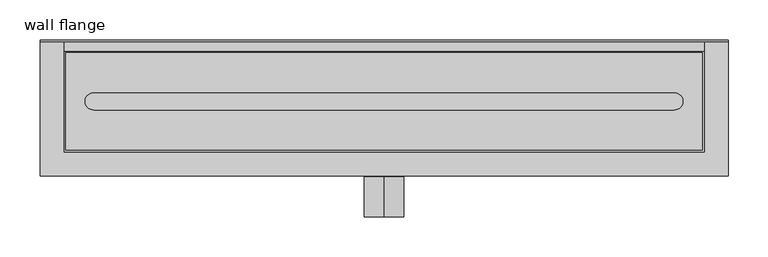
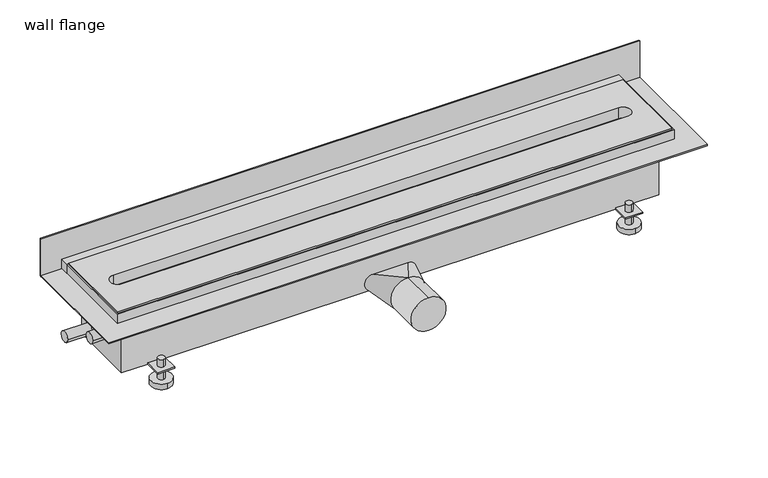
"""IFC4 building model written with IfcOpenShell, lengths in millimetres: sanitary terminal geometry, PF_ST_UN_ShowerDrain X_ACO : wall flange."""

from ifc_helpers import new_model, si_unit, point, frame, frame_2d, origin, origin_with_axes, place, context, project, spatial, polyline, circle_curve, trimmed, segment, composite_curve, outline, extrude, faceted_brep, source, transform, mapped, element, save
from ifc_brep_helpers import plane_surface, cylinder_surface, spline_surface, advanced_brep


def wall_flange_076fe20c(model_context):
    return source(origin(), model_context, "Body", "SolidModel", [
        advanced_brep(
        [(-336.0, 67.0, -73.0), (-336.0, 57.0, -73.0), (-336.0, 77.0, -111.0), (-336.0, 47.0, -111.0), (-336.0, 67.0, -103.0), (-336.0, 57.0, -103.0), (-336.0, 77.0, -103.0), (-336.0, 47.0, -103.0)],
        [
            (0, 1, circle_curve(frame((-336.0, 62.0, -73.0), z_axis=(0.0, 0.0, 1.0), x_axis=(0.0, -1.0, 0.0)), 5.0)),
            (1, 0, circle_curve(frame((-336.0, 62.0, -73.0), z_axis=(0.0, 0.0, 1.0), x_axis=(0.0, -1.0, 0.0)), 5.0)),
            (2, 3, circle_curve(frame((-336.0, 62.0, -111.0), z_axis=(0.0, 0.0, -1.0), x_axis=(0.0, -1.0, 0.0)), 15.0)),
            (3, 2, circle_curve(frame((-336.0, 62.0, -111.0), z_axis=(0.0, 0.0, -1.0), x_axis=(0.0, -1.0, 0.0)), 15.0)),
            (0, 4),
            (4, 5, circle_curve(frame((-336.0, 62.0, -103.0), z_axis=(0.0, 0.0, 1.0), x_axis=(0.0, -1.0, 0.0)), 5.0)),
            (5, 1),
            (5, 4, circle_curve(frame((-336.0, 62.0, -103.0), z_axis=(0.0, 0.0, 1.0), x_axis=(0.0, -1.0, 0.0)), 5.0)),
            (6, 7, circle_curve(frame((-336.0, 62.0, -103.0), z_axis=(0.0, 0.0, 1.0), x_axis=(0.0, -1.0, 0.0)), 15.0)),
            (7, 6, circle_curve(frame((-336.0, 62.0, -103.0), z_axis=(0.0, 0.0, 1.0), x_axis=(0.0, -1.0, 0.0)), 15.0)),
            (6, 2),
            (3, 7),
        ],
        [
            plane_surface(frame((-336.0, 57.0, -73.0), z_axis=(0.0, 0.0, 1.0), x_axis=(1.0, 0.0, 0.0))),
            plane_surface(frame((-336.0, 57.0, -111.0), z_axis=(0.0, 0.0, -1.0), x_axis=(-1.0, 0.0, 0.0))),
            cylinder_surface(frame((-336.0, 62.0, -111.0), z_axis=(0.0, 0.0, 1.0), x_axis=(0.0, -1.0, 0.0)), 5.0),
            plane_surface(frame((-336.0, 47.0, -103.0), z_axis=(0.0, 0.0, 1.0), x_axis=(1.0, 0.0, 0.0))),
            cylinder_surface(frame((-336.0, 62.0, -111.0), z_axis=(0.0, 0.0, 1.0), x_axis=(0.0, -1.0, 0.0)), 15.0),
        ],
        [
            (0, [[1, 2]]),
            (1, [[3, 4]]),
            (2, [[-1, 5, 6, 7]]),
            (2, [[-2, -7, 8, -5]]),
            (3, [[9, 10], [-6, -8]]),
            (4, [[-9, 11, -4, 12]]),
            (4, [[-10, -12, -3, -11]]),
        ],
    ),
        advanced_brep(
        [(-336.0, -56.5, -73.0), (-336.0, -66.5, -73.0), (-336.0, -46.5, -111.0), (-336.0, -76.5, -111.0), (-336.0, -56.5, -103.0), (-336.0, -66.5, -103.0), (-336.0, -46.5, -103.0), (-336.0, -76.5, -103.0)],
        [
            (0, 1, circle_curve(frame((-336.0, -61.5, -73.0), z_axis=(0.0, 0.0, 1.0), x_axis=(0.0, -1.0, 0.0)), 5.0)),
            (1, 0, circle_curve(frame((-336.0, -61.5, -73.0), z_axis=(0.0, 0.0, 1.0), x_axis=(0.0, -1.0, 0.0)), 5.0)),
            (2, 3, circle_curve(frame((-336.0, -61.5, -111.0), z_axis=(0.0, 0.0, -1.0), x_axis=(0.0, -1.0, 0.0)), 15.0)),
            (3, 2, circle_curve(frame((-336.0, -61.5, -111.0), z_axis=(0.0, 0.0, -1.0), x_axis=(0.0, -1.0, 0.0)), 15.0)),
            (0, 4),
            (4, 5, circle_curve(frame((-336.0, -61.5, -103.0), z_axis=(0.0, 0.0, 1.0), x_axis=(0.0, -1.0, 0.0)), 5.0)),
            (5, 1),
            (5, 4, circle_curve(frame((-336.0, -61.5, -103.0), z_axis=(0.0, 0.0, 1.0), x_axis=(0.0, -1.0, 0.0)), 5.0)),
            (6, 7, circle_curve(frame((-336.0, -61.5, -103.0), z_axis=(0.0, 0.0, 1.0), x_axis=(0.0, -1.0, 0.0)), 15.0)),
            (7, 6, circle_curve(frame((-336.0, -61.5, -103.0), z_axis=(0.0, 0.0, 1.0), x_axis=(0.0, -1.0, 0.0)), 15.0)),
            (6, 2),
            (3, 7),
        ],
        [
            plane_surface(frame((-336.0, 57.0, -73.0), z_axis=(0.0, 0.0, 1.0), x_axis=(1.0, 0.0, 0.0))),
            plane_surface(frame((-336.0, 57.0, -111.0), z_axis=(0.0, 0.0, -1.0), x_axis=(-1.0, 0.0, 0.0))),
            cylinder_surface(frame((-336.0, -61.5, -111.0), z_axis=(0.0, 0.0, 1.0), x_axis=(0.0, -1.0, 0.0)), 5.0),
            plane_surface(frame((-336.0, 47.0, -103.0), z_axis=(0.0, 0.0, 1.0), x_axis=(1.0, 0.0, 0.0))),
            cylinder_surface(frame((-336.0, -61.5, -111.0), z_axis=(0.0, 0.0, 1.0), x_axis=(0.0, -1.0, 0.0)), 15.0),
        ],
        [
            (0, [[1, 2]]),
            (1, [[3, 4]]),
            (2, [[-1, 5, 6, 7]]),
            (2, [[-2, -7, 8, -5]]),
            (3, [[9, 10], [-6, -8]]),
            (4, [[-9, 11, -4, 12]]),
            (4, [[-10, -12, -3, -11]]),
        ],
    ),
        advanced_brep(
        [(336.0, 67.0, -73.0), (336.0, 57.0, -73.0), (336.0, 77.0, -111.0), (336.0, 47.0, -111.0), (336.0, 67.0, -103.0), (336.0, 57.0, -103.0), (336.0, 77.0, -103.0), (336.0, 47.0, -103.0)],
        [
            (0, 1, circle_curve(frame((336.0, 62.0, -73.0), z_axis=(0.0, 0.0, 1.0), x_axis=(0.0, -1.0, 0.0)), 5.0)),
            (1, 0, circle_curve(frame((336.0, 62.0, -73.0), z_axis=(0.0, 0.0, 1.0), x_axis=(0.0, -1.0, 0.0)), 5.0)),
            (2, 3, circle_curve(frame((336.0, 62.0, -111.0), z_axis=(0.0, 0.0, -1.0), x_axis=(0.0, -1.0, 0.0)), 15.0)),
            (3, 2, circle_curve(frame((336.0, 62.0, -111.0), z_axis=(0.0, 0.0, -1.0), x_axis=(0.0, -1.0, 0.0)), 15.0)),
            (0, 4),
            (4, 5, circle_curve(frame((336.0, 62.0, -103.0), z_axis=(0.0, 0.0, 1.0), x_axis=(0.0, -1.0, 0.0)), 5.0)),
            (5, 1),
            (5, 4, circle_curve(frame((336.0, 62.0, -103.0), z_axis=(0.0, 0.0, 1.0), x_axis=(0.0, -1.0, 0.0)), 5.0)),
            (6, 7, circle_curve(frame((336.0, 62.0, -103.0), z_axis=(0.0, 0.0, 1.0), x_axis=(0.0, -1.0, 0.0)), 15.0)),
            (7, 6, circle_curve(frame((336.0, 62.0, -103.0), z_axis=(0.0, 0.0, 1.0), x_axis=(0.0, -1.0, 0.0)), 15.0)),
            (6, 2),
            (3, 7),
        ],
        [
            plane_surface(frame((-336.0, 57.0, -73.0), z_axis=(0.0, 0.0, 1.0), x_axis=(1.0, 0.0, 0.0))),
            plane_surface(frame((-336.0, 57.0, -111.0), z_axis=(0.0, 0.0, -1.0), x_axis=(-1.0, 0.0, 0.0))),
            cylinder_surface(frame((336.0, 62.0, -111.0), z_axis=(0.0, 0.0, 1.0), x_axis=(0.0, -1.0, 0.0)), 5.0),
            plane_surface(frame((-336.0, 47.0, -103.0), z_axis=(0.0, 0.0, 1.0), x_axis=(1.0, 0.0, 0.0))),
            cylinder_surface(frame((336.0, 62.0, -111.0), z_axis=(0.0, 0.0, 1.0), x_axis=(0.0, -1.0, 0.0)), 15.0),
        ],
        [
            (0, [[1, 2]]),
            (1, [[3, 4]]),
            (2, [[-1, 5, 6, 7]]),
            (2, [[-2, -7, 8, -5]]),
            (3, [[9, 10], [-6, -8]]),
            (4, [[-9, 11, -4, 12]]),
            (4, [[-10, -12, -3, -11]]),
        ],
    ),
        advanced_brep(
        [(336.0, -56.5, -73.0), (336.0, -66.5, -73.0), (336.0, -46.5, -111.0), (336.0, -76.5, -111.0), (336.0, -56.5, -103.0), (336.0, -66.5, -103.0), (336.0, -46.5, -103.0), (336.0, -76.5, -103.0)],
        [
            (0, 1, circle_curve(frame((336.0, -61.5, -73.0), z_axis=(0.0, 0.0, 1.0), x_axis=(0.0, -1.0, 0.0)), 5.0)),
            (1, 0, circle_curve(frame((336.0, -61.5, -73.0), z_axis=(0.0, 0.0, 1.0), x_axis=(0.0, -1.0, 0.0)), 5.0)),
            (2, 3, circle_curve(frame((336.0, -61.5, -111.0), z_axis=(0.0, 0.0, -1.0), x_axis=(0.0, -1.0, 0.0)), 15.0)),
            (3, 2, circle_curve(frame((336.0, -61.5, -111.0), z_axis=(0.0, 0.0, -1.0), x_axis=(0.0, -1.0, 0.0)), 15.0)),
            (0, 4),
            (4, 5, circle_curve(frame((336.0, -61.5, -103.0), z_axis=(0.0, 0.0, 1.0), x_axis=(0.0, -1.0, 0.0)), 5.0)),
            (5, 1),
            (5, 4, circle_curve(frame((336.0, -61.5, -103.0), z_axis=(0.0, 0.0, 1.0), x_axis=(0.0, -1.0, 0.0)), 5.0)),
            (6, 7, circle_curve(frame((336.0, -61.5, -103.0), z_axis=(0.0, 0.0, 1.0), x_axis=(0.0, -1.0, 0.0)), 15.0)),
            (7, 6, circle_curve(frame((336.0, -61.5, -103.0), z_axis=(0.0, 0.0, 1.0), x_axis=(0.0, -1.0, 0.0)), 15.0)),
            (6, 2),
            (3, 7),
        ],
        [
            plane_surface(frame((-336.0, 57.0, -73.0), z_axis=(0.0, 0.0, 1.0), x_axis=(1.0, 0.0, 0.0))),
            plane_surface(frame((-336.0, 57.0, -111.0), z_axis=(0.0, 0.0, -1.0), x_axis=(-1.0, 0.0, 0.0))),
            cylinder_surface(frame((336.0, -61.5, -111.0), z_axis=(0.0, 0.0, 1.0), x_axis=(0.0, -1.0, 0.0)), 5.0),
            plane_surface(frame((-336.0, 47.0, -103.0), z_axis=(0.0, 0.0, 1.0), x_axis=(1.0, 0.0, 0.0))),
            cylinder_surface(frame((336.0, -61.5, -111.0), z_axis=(0.0, 0.0, 1.0), x_axis=(0.0, -1.0, 0.0)), 15.0),
        ],
        [
            (0, [[1, 2]]),
            (1, [[3, 4]]),
            (2, [[-1, 5, 6, 7]]),
            (2, [[-2, -7, 8, -5]]),
            (3, [[9, 10], [-6, -8]]),
            (4, [[-9, 11, -4, 12]]),
            (4, [[-10, -12, -3, -11]]),
        ],
    ),
        extrude(outline(polyline([(400.0, 75.0), (400.0, 63.0), (-400.0, 63.0), (-400.0, 75.0), (400.0, 75.0)])), frame((0.0, 0.0, 2.0), z_axis=(0.0, 0.0, 1.0), x_axis=(1.0, 0.0, 0.0)), (0.0, 0.0, 1.0), 14.0),
        extrude(outline(polyline([(430.0, 75.0), (-430.0, 75.0), (-430.0, 77.0), (430.0, 77.0), (430.0, 75.0)])), origin_with_axes(), (0.0, 0.0, 1.0), 57.0),
        advanced_brep(
        [(386.0, 50.0, -86.0), (386.0, -49.0, -86.0), (348.5, -49.0, -86.0), (348.5, -74.0, -86.0), (323.5, -74.0, -86.0), (323.5, -49.0, -86.0), (-323.5, -49.0, -86.0), (-323.5, -74.0, -86.0), (-348.5, -74.0, -86.0), (-348.5, -49.0, -86.0), (-386.0, -49.0, -86.0), (-386.0, 50.0, -86.0), (-348.5, 50.0, -86.0), (-348.5, 74.0, -86.0), (-323.5, 74.0, -86.0), (-323.5, 50.0, -86.0), (323.5, 50.0, -86.0), (323.5, 74.0, -86.0), (348.5, 74.0, -86.0), (348.5, 50.0, -86.0), (386.0, 50.0, -8.0), (-386.0, 50.0, -8.0), (-386.0, -49.0, -8.0), (386.0, -49.0, -8.0), (348.5, 50.0, -84.0), (323.5, 50.0, -84.0), (-323.5, 50.0, -84.0), (-348.5, 50.0, -84.0), (-386.0, 39.85, -68.0), (-386.0, 24.15, -68.0), (-386.0, -22.15, -32.0), (-386.0, -37.85, -32.0), (-348.5, -49.0, -84.0), (-323.5, -49.0, -84.0), (323.5, -49.0, -84.0), (348.5, -49.0, -84.0), (-421.0, 39.85, -68.0), (-421.0, 24.15, -68.0), (-421.0, -22.15, -32.0), (-421.0, -37.85, -32.0), (-323.5, 74.0, -84.0), (-348.5, 74.0, -84.0), (348.5, 74.0, -84.0), (323.5, 74.0, -84.0), (348.5, -74.0, -84.0), (323.5, -74.0, -84.0), (-348.5, -74.0, -84.0), (-323.5, -74.0, -84.0)],
        [
            (0, 1),
            (1, 2),
            (2, 3),
            (3, 4),
            (4, 5),
            (5, 6),
            (6, 7),
            (7, 8),
            (8, 9),
            (9, 10),
            (10, 11),
            (11, 12),
            (12, 13),
            (13, 14),
            (14, 15),
            (15, 16),
            (16, 17),
            (17, 18),
            (18, 19),
            (19, 0),
            (20, 21),
            (21, 22),
            (22, 23),
            (23, 20),
            (20, 0),
            (19, 24),
            (24, 25),
            (25, 16),
            (15, 26),
            (26, 27),
            (27, 12),
            (11, 21),
            (10, 22),
            (28, 29, circle_curve(frame((-386.0, 32.0, -68.0), z_axis=(1.0, 0.0, 0.0), x_axis=(0.0, -1.0, 0.0)), 7.85)),
            (29, 28, circle_curve(frame((-386.0, 32.0, -68.0), z_axis=(1.0, 0.0, 0.0), x_axis=(0.0, -1.0, 0.0)), 7.85)),
            (30, 31, circle_curve(frame((-386.0, -30.0, -32.0), z_axis=(1.0, 0.0, 0.0), x_axis=(0.0, -1.0, 0.0)), 7.85)),
            (31, 30, circle_curve(frame((-386.0, -30.0, -32.0), z_axis=(1.0, 0.0, 0.0), x_axis=(0.0, -1.0, 0.0)), 7.85)),
            (9, 32),
            (32, 33),
            (33, 6),
            (5, 34),
            (34, 35),
            (35, 2),
            (1, 23),
            (36, 37, circle_curve(frame((-421.0, 32.0, -68.0), z_axis=(-1.0, 0.0, 0.0), x_axis=(0.0, -1.0, 0.0)), 7.85)),
            (37, 36, circle_curve(frame((-421.0, 32.0, -68.0), z_axis=(-1.0, 0.0, 0.0), x_axis=(0.0, -1.0, 0.0)), 7.85)),
            (37, 29),
            (28, 36),
            (38, 39, circle_curve(frame((-421.0, -30.0, -32.0), z_axis=(-1.0, 0.0, 0.0), x_axis=(0.0, -1.0, 0.0)), 7.85)),
            (39, 38, circle_curve(frame((-421.0, -30.0, -32.0), z_axis=(-1.0, 0.0, 0.0), x_axis=(0.0, -1.0, 0.0)), 7.85)),
            (39, 31),
            (30, 38),
            (40, 41),
            (41, 27),
            (26, 40),
            (42, 43),
            (43, 25),
            (24, 42),
            (44, 35),
            (34, 45),
            (45, 44),
            (46, 47),
            (47, 33),
            (32, 46),
            (40, 14),
            (13, 41),
            (42, 18),
            (17, 43),
            (44, 3),
            (4, 45),
            (46, 8),
            (7, 47),
        ],
        [
            plane_surface(frame((-386.0, 50.0, -86.0), z_axis=(0.0, 0.0, -1.0), x_axis=(1.0, 0.0, 0.0))),
            plane_surface(frame((-386.0, 50.0, -8.0), z_axis=(0.0, 0.0, 1.0), x_axis=(-1.0, 0.0, 0.0))),
            plane_surface(frame((386.0, 50.0, -8.0), z_axis=(0.0, 1.0, 0.0), x_axis=(0.0, 0.0, -1.0))),
            plane_surface(frame((-386.0, 50.0, -8.0), z_axis=(-1.0, 0.0, 0.0), x_axis=(0.0, 0.0, -1.0))),
            plane_surface(frame((-386.0, -49.0, -8.0), z_axis=(0.0, -1.0, 0.0), x_axis=(0.0, 0.0, -1.0))),
            plane_surface(frame((386.0, -49.0, -8.0), z_axis=(1.0, 0.0, 0.0), x_axis=(0.0, 0.0, -1.0))),
            plane_surface(frame((-421.0, 32.0, -68.0), z_axis=(-1.0, 0.0, 0.0), x_axis=(0.0, 0.0, 1.0))),
            cylinder_surface(frame((0.0, 32.0, -68.0), z_axis=(1.0, 0.0, 0.0), x_axis=(0.0, -1.0, 0.0)), 7.85),
            plane_surface(frame((-421.0, -30.0, -32.0), z_axis=(-1.0, 0.0, 0.0), x_axis=(0.0, 0.0, 1.0))),
            cylinder_surface(frame((0.0, -30.0, -32.0), z_axis=(1.0, 0.0, 0.0), x_axis=(0.0, -1.0, 0.0)), 7.85),
            plane_surface(frame((-348.5, 74.0, -84.0), z_axis=(0.0, 0.0, 1.0), x_axis=(-1.0, 0.0, 0.0))),
            plane_surface(frame((-323.5, 74.0, -84.0), z_axis=(0.0, 1.0, 0.0), x_axis=(0.0, 0.0, -1.0))),
            plane_surface(frame((-348.5, 74.0, -84.0), z_axis=(-1.0, 0.0, 0.0), x_axis=(0.0, 0.0, -1.0))),
            plane_surface(frame((-323.5, 50.0, -84.0), z_axis=(1.0, 0.0, 0.0), x_axis=(0.0, 0.0, -1.0))),
            plane_surface(frame((348.5, 74.0, -84.0), z_axis=(0.0, 1.0, 0.0), x_axis=(0.0, 0.0, -1.0))),
            plane_surface(frame((323.5, 74.0, -84.0), z_axis=(-1.0, 0.0, 0.0), x_axis=(0.0, 0.0, -1.0))),
            plane_surface(frame((348.5, 50.0, -84.0), z_axis=(1.0, 0.0, 0.0), x_axis=(0.0, 0.0, -1.0))),
            plane_surface(frame((348.5, -74.0, -84.0), z_axis=(1.0, 0.0, 0.0), x_axis=(0.0, 0.0, -1.0))),
            plane_surface(frame((323.5, -49.0, -84.0), z_axis=(-1.0, 0.0, 0.0), x_axis=(0.0, 0.0, -1.0))),
            plane_surface(frame((323.5, -74.0, -84.0), z_axis=(0.0, -1.0, 0.0), x_axis=(0.0, 0.0, -1.0))),
            plane_surface(frame((-348.5, -74.0, -84.0), z_axis=(0.0, -1.0, 0.0), x_axis=(0.0, 0.0, -1.0))),
            plane_surface(frame((-323.5, -74.0, -84.0), z_axis=(1.0, 0.0, 0.0), x_axis=(0.0, 0.0, -1.0))),
            plane_surface(frame((-348.5, -49.0, -84.0), z_axis=(-1.0, 0.0, 0.0), x_axis=(0.0, 0.0, -1.0))),
        ],
        [
            (0, [[1, 2, 3, 4, 5, 6, 7, 8, 9, 10, 11, 12, 13, 14, 15, 16, 17, 18, 19, 20]]),
            (1, [[21, 22, 23, 24]]),
            (2, [[-21, 25, -20, 26, 27, 28, -16, 29, 30, 31, -12, 32]]),
            (3, [[-11, 33, -22, -32], [34, 35], [36, 37]]),
            (4, [[-23, -33, -10, 38, 39, 40, -6, 41, 42, 43, -2, 44]]),
            (5, [[-1, -25, -24, -44]]),
            (6, [[45, 46]]),
            (7, [[-46, 47, -34, 48]]),
            (7, [[-45, -48, -35, -47]]),
            (8, [[49, 50]]),
            (9, [[-50, 51, -36, 52]]),
            (9, [[-49, -52, -37, -51]]),
            (10, [[53, 54, -30, 55]]),
            (10, [[56, 57, -27, 58]]),
            (10, [[59, -42, 60, 61]]),
            (10, [[62, 63, -39, 64]]),
            (11, [[-53, 65, -14, 66]]),
            (12, [[-54, -66, -13, -31]]),
            (13, [[-55, -29, -15, -65]]),
            (14, [[-56, 67, -18, 68]]),
            (15, [[-57, -68, -17, -28]]),
            (16, [[-58, -26, -19, -67]]),
            (17, [[-59, 69, -3, -43]]),
            (18, [[-60, -41, -5, 70]]),
            (19, [[-61, -70, -4, -69]]),
            (20, [[-62, 71, -8, 72]]),
            (21, [[-63, -72, -7, -40]]),
            (22, [[-64, -38, -9, -71]]),
        ],
    ),
        extrude(outline(polyline([(398.0, 61.0), (398.0, -61.0), (-398.0, -61.0), (-398.0, 61.0), (398.0, 61.0)]), holes=[composite_curve([segment(polyline([(363.0860312, 10.6770786), (-363.0900069, 10.6770786)]), True, "CONTINUOUS"), segment(trimmed(circle_curve(frame_2d((-363.0900069, 0.0)), 10.6770786), [point((-363.0900069, 10.6770786))], [point((-363.0900069, -10.6770786))], True, "CARTESIAN"), True, "CONTINUOUS"), segment(polyline([(-363.0900069, -10.6770786), (363.0860312, -10.6770786)]), True, "CONTINUOUS"), segment(trimmed(circle_curve(frame_2d((363.0860312, 0.0)), 10.6770786), [point((363.0860312, -10.6770786))], [point((363.0860312, 10.6770786))], True, "CARTESIAN"), True, "CONTINUOUS")], self_intersect=False)]), origin_with_axes(), (0.0, 0.0, 1.0), 18.0),
        advanced_brep(
        [(0.0, -144.5, -99.0), (0.0, -144.5, -49.0), (0.0, -94.5, -99.0), (13.0, -94.5, -95.3541565), (13.0005627, -94.5, -52.6461861), (0.0, -94.5, -49.0), (-13.0, -94.5, -52.6458435), (-13.0, -94.5, -95.3541565), (25.0, -50.0, -86.0), (-25.0, -50.0, -86.0), (-25.0, -50.0, -62.0), (25.0, -50.0, -62.0)],
        [
            (0, 1, circle_curve(frame((0.0, -144.5, -74.0), z_axis=(0.0, -1.0, 0.0), x_axis=(0.0, 0.0, 1.0)), 25.0)),
            (1, 0, circle_curve(frame((0.0, -144.5, -74.0), z_axis=(0.0, -1.0, 0.0), x_axis=(0.0, 0.0, 1.0)), 25.0)),
            (0, 2),
            (2, 3, circle_curve(frame((0.0, -94.5, -74.0), z_axis=(0.0, -1.0, 0.0), x_axis=(0.0, 0.0, 1.0)), 25.0)),
            (3, 4, circle_curve(frame((0.0, -94.5, -74.0), z_axis=(0.0, -1.0, 0.0), x_axis=(0.0, 0.0, 1.0)), 25.0)),
            (4, 5, circle_curve(frame((0.0, -94.5, -74.0), z_axis=(0.0, -1.0, 0.0), x_axis=(0.0, 0.0, 1.0)), 25.0)),
            (5, 1),
            (5, 6, circle_curve(frame((0.0, -94.5, -74.0), z_axis=(0.0, -1.0, 0.0), x_axis=(0.0, 0.0, 1.0)), 25.0)),
            (6, 7, circle_curve(frame((0.0, -94.5, -74.0), z_axis=(0.0, -1.0, 0.0), x_axis=(0.0, 0.0, 1.0)), 25.0)),
            (7, 2, circle_curve(frame((0.0, -94.5, -74.0), z_axis=(0.0, -1.0, 0.0), x_axis=(0.0, 0.0, 1.0)), 25.0)),
            (8, 9),
            (9, 10, circle_curve(frame((-25.0, -50.0, -74.0), z_axis=(0.0, 1.0, 0.0), x_axis=(0.0, 0.0, 1.0)), 12.0)),
            (10, 11),
            (11, 8, circle_curve(frame((25.0, -50.0, -74.0), z_axis=(0.0, 1.0, 0.0), x_axis=(0.0, 0.0, 1.0)), 12.0)),
            (8, 2),
            (2, 9),
            (5, 10),
            (5, 11),
        ],
        [
            plane_surface(frame((0.0, -144.5, -74.0), z_axis=(0.0, -1.0, 0.0), x_axis=(1.0, 0.0, 0.0))),
            cylinder_surface(frame((0.0, -144.5, -74.0), z_axis=(0.0, -1.0, 0.0), x_axis=(0.0, 0.0, 1.0)), 25.0),
            plane_surface(frame((0.0, -50.0, -74.0), z_axis=(0.0, 1.0, 0.0), x_axis=(-1.0, 0.0, 0.0))),
            plane_surface(frame((0.0, -94.5, -99.0), z_axis=(0.0, 0.2804141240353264, -0.9598791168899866), x_axis=(-1.0, 0.0, 0.0))),
            spline_surface(2, 1, [[(0.0, -94.5, -99.0), (-25.0, -50.0, -86.0)], [(-25.0, -94.5, -99.0), (-37.0, -50.0, -86.0)], [(-25.0, -94.5, -74.0), (-37.0, -50.0, -74.0)], [(-25.0, -94.5, -49.0), (-37.0, -50.0, -62.0)], [(0.0, -94.5, -49.0), (-25.0, -50.0, -62.0)]], [3, 2, 3], [2, 2], [0.0, 1.0, 2.0], [0.0, 1.0], weights=[[1.0, 1.0], [0.7071067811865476, 0.7071067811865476], [1.0, 1.0], [0.7071067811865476, 0.7071067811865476], [1.0, 1.0]]),
            plane_surface(frame((0.0, -94.5, -49.0), z_axis=(0.0, 0.2804141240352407, 0.9598791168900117), x_axis=(1.0, 0.0, 0.0))),
            spline_surface(2, 1, [[(0.0, -94.5, -49.0), (25.0, -50.0, -62.0)], [(25.0, -94.5, -49.0), (37.0, -50.0, -62.0)], [(25.0, -94.5, -74.0), (37.0, -50.0, -74.0)], [(25.0, -94.5, -99.0), (37.0, -50.0, -86.0)], [(0.0, -94.5, -99.0), (25.0, -50.0, -86.0)]], [3, 2, 3], [2, 2], [0.0, 1.0, 2.0], [0.0, 1.0], weights=[[1.0, 1.0], [0.7071067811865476, 0.7071067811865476], [1.0, 1.0], [0.7071067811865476, 0.7071067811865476], [1.0, 1.0]]),
        ],
        [
            (0, [[1, 2]]),
            (1, [[-1, 3, 4, 5, 6, 7]]),
            (1, [[-2, -7, 8, 9, 10, -3]]),
            (2, [[11, 12, 13, 14]]),
            (3, [[-11, 15, 16]]),
            (4, [[-12, -16, -10, -9, -8, 17]]),
            (5, [[-13, -17, 18]]),
            (6, [[-14, -18, -6, -5, -4, -15]]),
        ],
    ),
        extrude(outline(polyline([(430.0, 77.0), (430.0, -93.0), (-430.0, -93.0), (-430.0, 77.0), (430.0, 77.0)])), origin_with_axes(), (0.0, 0.0, 1.0), 2.0),
        faceted_brep([(400.0, 63.0, 16.0), (-400.0, 63.0, 16.0), (-400.0, -63.0, 16.0), (400.0, -63.0, 16.0), (-398.0, 61.0, 16.0), (398.0, 61.0, 16.0), (398.0, -61.0, 16.0), (-398.0, -61.0, 16.0), (400.0, 63.0, -8.0), (400.0, -63.0, -8.0), (-400.0, -63.0, -8.0), (-400.0, 63.0, -8.0), (398.0, 61.0, -6.0), (-398.0, 61.0, -6.0), (-398.0, -61.0, -6.0), (398.0, -61.0, -6.0)], [[[0, 1, 2, 3], [4, 5, 6, 7]], [[8, 9, 10, 11]], [[1, 0, 8, 11]], [[2, 1, 11, 10]], [[3, 2, 10, 9]], [[0, 3, 9, 8]], [[12, 13, 14, 15]], [[13, 12, 5, 4]], [[14, 13, 4, 7]], [[15, 14, 7, 6]], [[12, 15, 6, 5]]]),
    ])


if __name__ == "__main__":
    model = new_model("IFC4")
    model_context = context("Model", 3, world=origin())
    ifc_project = project(units=[si_unit("LENGTHUNIT", "METRE", prefix="MILLI")], contexts=[model_context])
    site = spatial("IfcSite", under=ifc_project)
    building = spatial("IfcBuilding", under=site)
    placement = place(None, origin())
    wall_flange_shape = wall_flange_076fe20c(model_context)
    element("IfcSanitaryTerminal", 1, ObjectType="PF_ST_UN_ShowerDrain X_ACO : wall flange", at=placement, inside=building, context=model_context, shape_type="MappedRepresentation", body=[
        mapped(wall_flange_shape, transform((0.0, 0.0, 0.0), x_axis=(1.0, 0.0, 0.0), y_axis=(0.0, 1.0, 0.0), z_axis=(0.0, 0.0, 1.0))),
    ])
    save(model, "model.ifc")
